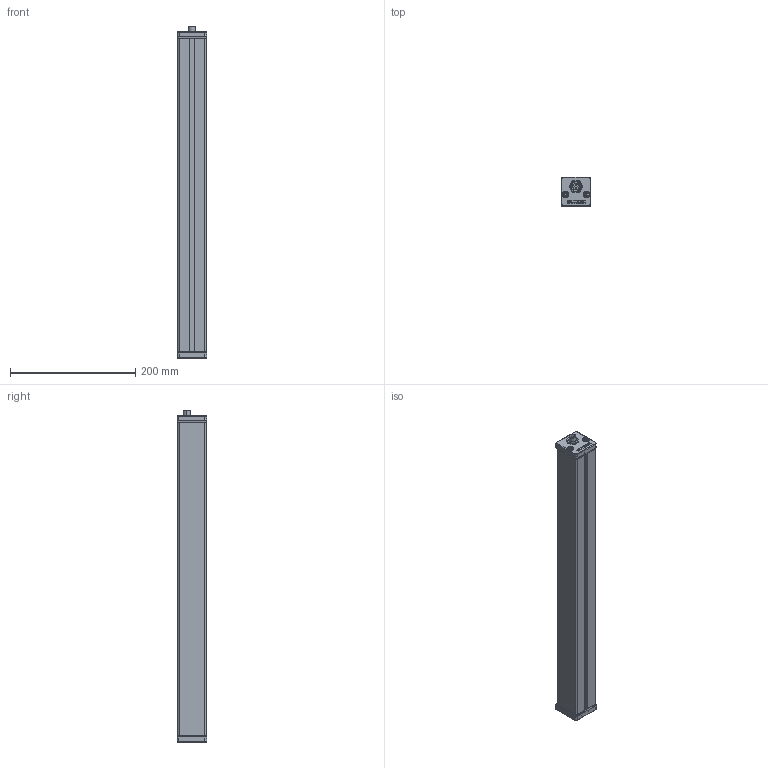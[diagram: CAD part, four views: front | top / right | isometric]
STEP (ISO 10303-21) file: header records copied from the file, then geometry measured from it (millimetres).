
FILE_DESCRIPTION (( 'STEP AP214' ), '1' );
FILE_NAME ('XBAR18.STEP', '2012-07-10T09:12:45', ( ' ' ), ( '' ), 'SwSTEP 2.0', 'SolidWorks 2009', '' );
FILE_SCHEMA (( 'AUTOMOTIVE_DESIGN' ));
Length unit declared in the file: millimetre
Products named in the file (1): XBAR18
Bounding box: 47 x 47 x 531.1 mm (x, y, z)
Volume: 275112.8 mm3; surface area: 282443 mm2
Topology: 9 solids, 9 shells, 631 faces, 1565 edges, 992 vertices
Faces by surface type: plane 300, cylinder 175, torus 62, bspline 58, cone 28, sphere 8
Entity records: 28413 total; most frequent: CARTESIAN_POINT 6647, ORIENTED_EDGE 3098, DIRECTION 2991, EDGE_CURVE 1549, AXIS2_PLACEMENT_3D 1016, VERTEX_POINT 984, VECTOR 959, LINE 959
